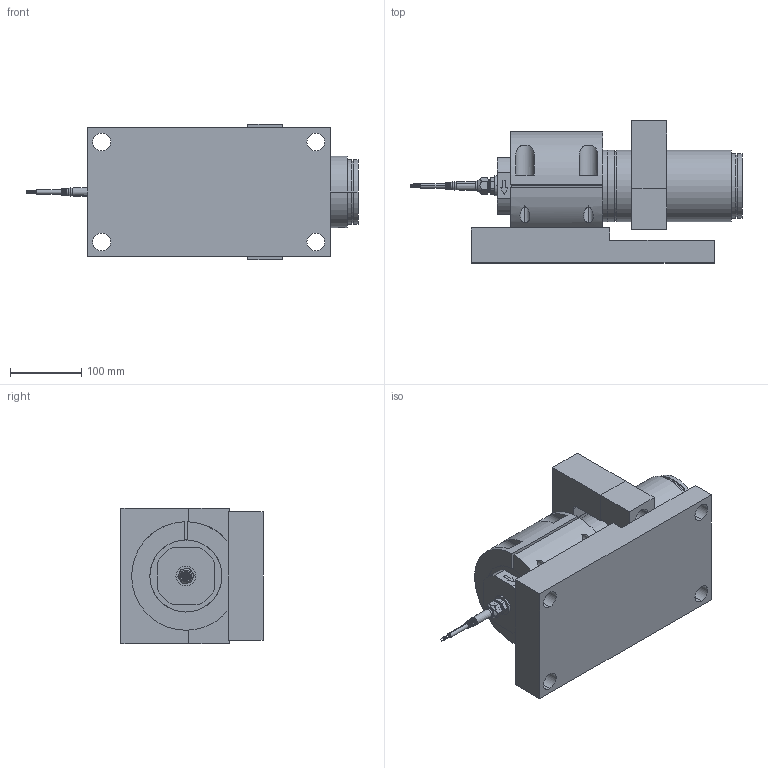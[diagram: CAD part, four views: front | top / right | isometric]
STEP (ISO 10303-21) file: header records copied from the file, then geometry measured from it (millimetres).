
FILE_DESCRIPTION (( 'STEP AP203' ), '1' );
FILE_NAME ('KIS-1 200 kN Module.STEP', '2021-10-18T13:43:43', ( '' ), ( '' ), 'SwSTEP 2.0', 'SolidWorks 2021', '' );
FILE_SCHEMA (( 'CONFIG_CONTROL_DESIGN' ));
Length unit declared in the file: millimetre
Products named in the file (12): KIS-1 200 kN Module; Pg9 - 1009.52 6_2_14; 5196893r1; Tätning Hylsa Silikon^1157654 - KIS-1 200kN - Rostfri; M26x1.5 - Pg9 - 6369829; 4095995r3; 4079541r2; 3053866r1; 1157654 - KIS-1 200kN - Rostfri; Wiberger-frp_12x20; Standardkabel 4-Cond PVC; 4084482r2
Assembly tree (11 placements, depth 3):
  KIS-1 200 kN Module
    3053866r1
    1157654 - KIS-1 200kN - Rostfri
      4095995r3
      5196893r1
      Tätning Hylsa Silikon^1157654 - KIS-1 200kN - Rostfri
      M26x1.5 - Pg9 - 6369829
      Pg9 - 1009.52 6_2_14
      Standardkabel 4-Cond PVC
      Wiberger-frp_12x20
    4084482r2
    4079541r2
Bounding box: 465 x 199 x 190 mm (x, y, z)
Volume: 6966962.3 mm3; surface area: 644389.1 mm2
Topology: 10 solids, 13 shells, 554 faces, 1344 edges, 864 vertices
Faces by surface type: plane 251, cylinder 162, bspline 65, cone 62, torus 14
Entity records: 21031 total; most frequent: CARTESIAN_POINT 6761, ORIENTED_EDGE 2680, DIRECTION 2672, EDGE_CURVE 1340, AXIS2_PLACEMENT_3D 952, VERTEX_POINT 864, VECTOR 768, LINE 768
